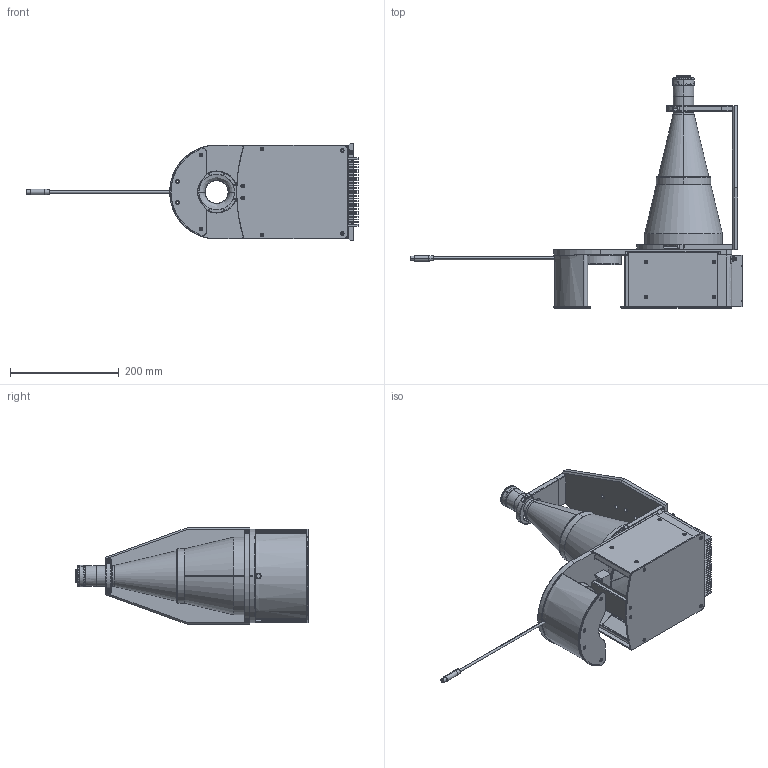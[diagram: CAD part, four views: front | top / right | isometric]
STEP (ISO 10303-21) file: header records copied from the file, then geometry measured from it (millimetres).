
FILE_DESCRIPTION(('LS-TCL-0028'),'2;1');
FILE_NAME('LS-TCL-0028.stp','2026-10-15T21:52:42',('LumaSpec Vision'),('LumaSpec Vision'),'LumaSpec Vision','LumaSpec Vision','');
FILE_SCHEMA(('AUTOMOTIVE_DESIGN { 1 0 10303 214 1 1 1 1 }'));
Length unit declared in the file: millimetre
Products named in the file (930): LumaSpec Vision
Assembly tree (929 placements, depth 2):
  LumaSpec Vision
    LumaSpec Vision
    LumaSpec Vision
    LumaSpec Vision
    LumaSpec Vision
    LumaSpec Vision
    LumaSpec Vision
    LumaSpec Vision
    LumaSpec Vision
    LumaSpec Vision
    LumaSpec Vision
    LumaSpec Vision
    LumaSpec Vision
    LumaSpec Vision
    LumaSpec Vision
    LumaSpec Vision
    LumaSpec Vision
    LumaSpec Vision
    LumaSpec Vision
    LumaSpec Vision
    LumaSpec Vision
    LumaSpec Vision
    LumaSpec Vision
    LumaSpec Vision
    LumaSpec Vision
    LumaSpec Vision
    LumaSpec Vision
    LumaSpec Vision
    LumaSpec Vision
    LumaSpec Vision
    LumaSpec Vision
    LumaSpec Vision
    LumaSpec Vision
    LumaSpec Vision
    LumaSpec Vision
    LumaSpec Vision
    LumaSpec Vision
    LumaSpec Vision
    LumaSpec Vision
    LumaSpec Vision
    LumaSpec Vision
    LumaSpec Vision
    LumaSpec Vision
    LumaSpec Vision
    LumaSpec Vision
    LumaSpec Vision
    LumaSpec Vision
    LumaSpec Vision
    LumaSpec Vision
    LumaSpec Vision
    LumaSpec Vision
    LumaSpec Vision
    LumaSpec Vision
    LumaSpec Vision
    LumaSpec Vision
    LumaSpec Vision
    LumaSpec Vision
    LumaSpec Vision
    LumaSpec Vision
    LumaSpec Vision
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Bounding box: 611.73 x 427.56 x 179 mm (x, y, z)
Surface area: 721100.6 mm2 (no closed solid volume)
Topology: 0 solids, 929 shells, 929 faces, 15039 edges, 15017 vertices
Faces by surface type: bspline 584, revolution 345
Entity records: 251911 total; most frequent: CARTESIAN_POINT 99547, B_SPLINE_CURVE_WITH_KNOTS 26115, ORIENTED_EDGE 15018, EDGE_CURVE 15018, VERTEX_POINT 15018, SURFACE_CURVE 15018, PCURVE 15018, DEFINITIONAL_REPRESENTATION 15018
